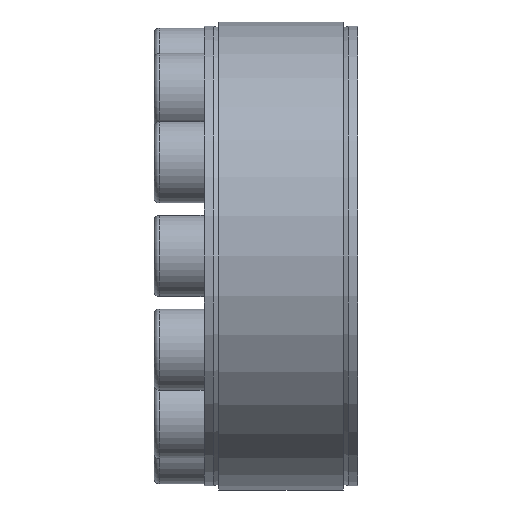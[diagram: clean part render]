
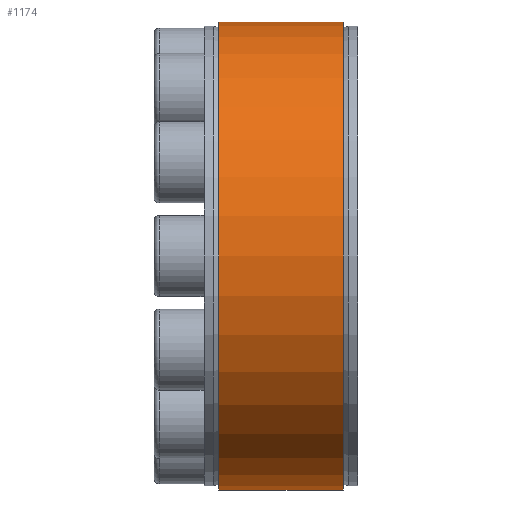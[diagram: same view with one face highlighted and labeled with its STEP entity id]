
A CAD part, front view. The second image highlights one B-rep face of the part: STEP entity #1174.
In plain terms, the highlighted cylindrical face has radius 37.5 mm (diameter 75 mm), a partial arc.
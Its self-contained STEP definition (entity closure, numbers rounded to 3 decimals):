
#191=CYLINDRICAL_SURFACE('',#1261,37.5);
#232=CIRCLE('',#1258,37.5);
#233=CIRCLE('',#1260,37.5);
#332=FACE_OUTER_BOUND('',#407,.T.);
#407=EDGE_LOOP('',(#916,#917,#918,#919));
#588=LINE('',#1825,#616);
#592=LINE('',#1842,#620);
#616=VECTOR('',#1433,20.);
#620=VECTOR('',#1439,20.);
#644=VERTEX_POINT('',#1823);
#645=VERTEX_POINT('',#1824);
#650=VERTEX_POINT('',#1840);
#651=VERTEX_POINT('',#1841);
#755=EDGE_CURVE('',#644,#645,#588,.T.);
#761=EDGE_CURVE('',#650,#651,#592,.T.);
#771=EDGE_CURVE('',#651,#644,#232,.T.);
#772=EDGE_CURVE('',#650,#645,#233,.T.);
#916=ORIENTED_EDGE('',*,*,#755,.T.);
#917=ORIENTED_EDGE('',*,*,#772,.F.);
#918=ORIENTED_EDGE('',*,*,#761,.T.);
#919=ORIENTED_EDGE('',*,*,#771,.T.);
#1174=ADVANCED_FACE('',(#332),#191,.T.);
#1258=AXIS2_PLACEMENT_3D('',#1864,#1459,#1460);
#1260=AXIS2_PLACEMENT_3D('',#1866,#1463,#1464);
#1261=AXIS2_PLACEMENT_3D('',#1867,#1465,#1466);
#1433=DIRECTION('',(-1.,0.,0.));
#1439=DIRECTION('',(1.,0.,0.));
#1459=DIRECTION('center_axis',(-1.,0.,0.));
#1460=DIRECTION('ref_axis',(0.,0.,1.));
#1463=DIRECTION('center_axis',(-1.,0.,0.));
#1464=DIRECTION('ref_axis',(0.,0.,1.));
#1465=DIRECTION('center_axis',(-1.,0.,0.));
#1466=DIRECTION('ref_axis',(0.,0.,1.));
#1823=CARTESIAN_POINT('',(12.346,37.487,2.184));
#1824=CARTESIAN_POINT('',(-7.654,37.487,2.184));
#1825=CARTESIAN_POINT('',(2.346,37.487,2.184));
#1840=CARTESIAN_POINT('',(-7.654,37.487,0.184));
#1841=CARTESIAN_POINT('',(12.346,37.487,0.184));
#1842=CARTESIAN_POINT('',(2.346,37.487,0.184));
#1864=CARTESIAN_POINT('Origin',(12.346,0.,1.184));
#1866=CARTESIAN_POINT('Origin',(-7.654,0.,1.184));
#1867=CARTESIAN_POINT('Origin',(2.346,0.,1.184));
